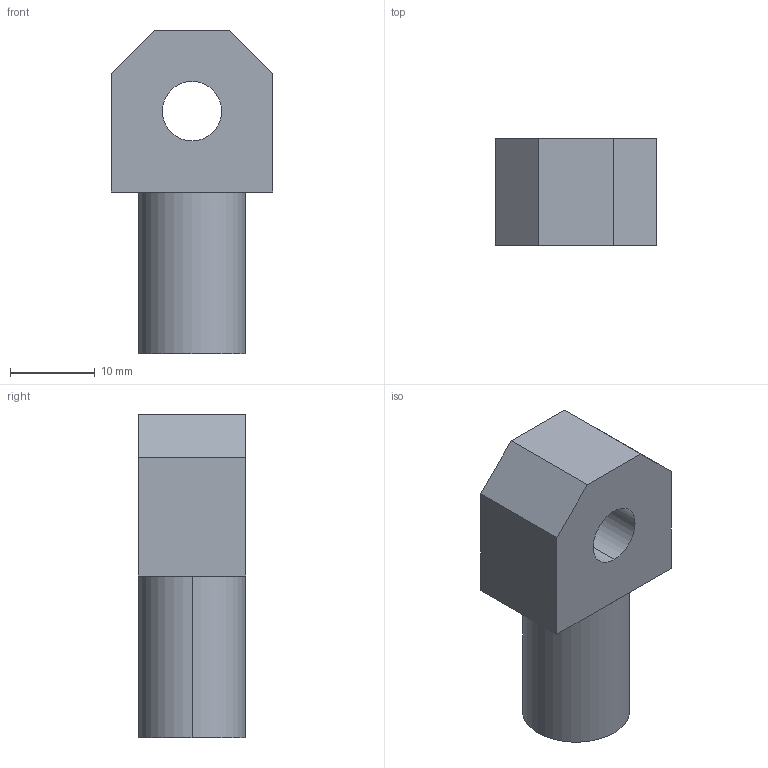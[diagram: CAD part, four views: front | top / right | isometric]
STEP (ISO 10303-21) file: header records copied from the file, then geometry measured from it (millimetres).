
FILE_DESCRIPTION (( 'STEP AP214' ), '1' );
FILE_NAME ('RTI-LCM-LC10.STEP', '2013-10-22T14:19:54', ( 'user' ), ( '' ), 'SwSTEP 2.0', 'SolidWorks 2009', '' );
FILE_SCHEMA (( 'AUTOMOTIVE_DESIGN' ));
Length unit declared in the file: inch
Products named in the file (1): RTI-LCM-LC10
Bounding box: 19.05 x 12.7 x 38.1 mm (x, y, z)
Volume: 6175 mm3; surface area: 2536.9 mm2
Topology: 1 solids, 1 shells, 125 faces, 324 edges, 216 vertices
Faces by surface type: plane 93, bspline 28, cylinder 4
Entity records: 6825 total; most frequent: CARTESIAN_POINT 2454, ORIENTED_EDGE 648, DIRECTION 472, EDGE_CURVE 324, LINE 260, VECTOR 260, VERTEX_POINT 216, EDGE_LOOP 142
